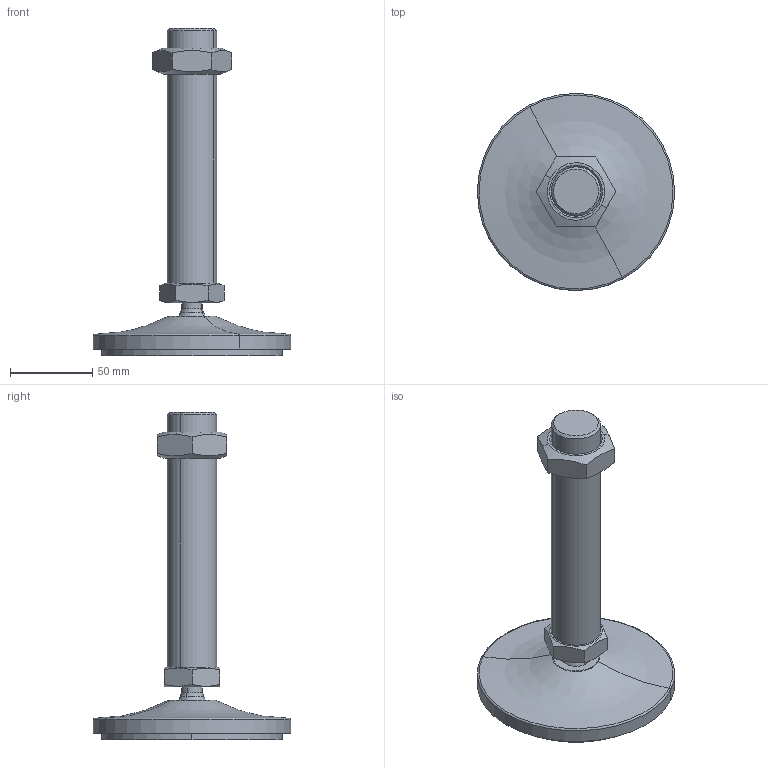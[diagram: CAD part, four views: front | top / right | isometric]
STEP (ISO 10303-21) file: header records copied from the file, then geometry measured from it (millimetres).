
FILE_DESCRIPTION(('CATIA V5 STEP Exchange'),'2;1');
FILE_NAME('C:\Users\ALI OZGUN\Desktop\alhan\saplama2\560123021AV.stp','2017-09-21T10:32:32+00:00',('none'),('none'),'CATIA Version 5 Release 21 GA (IN-10)','CATIA V5 STEP AP203','none');
FILE_SCHEMA(('CONFIG_CONTROL_DESIGN'));
Length unit declared in the file: millimetre
Products named in the file (1): 560123021AV
Bounding box: 119.97 x 119.97 x 199 mm (x, y, z)
Volume: 306396.9 mm3; surface area: 73894.1 mm2
Topology: 4 solids, 4 shells, 64 faces, 142 edges, 87 vertices
Faces by surface type: plane 22, cylinder 16, cone 16, torus 4, revolution 4, sphere 2
Entity records: 1966 total; most frequent: CARTESIAN_POINT 658, ORIENTED_EDGE 280, DIRECTION 197, EDGE_CURVE 140, AXIS2_PLACEMENT_3D 106, VERTEX_POINT 87, EDGE_LOOP 71, ADVANCED_FACE 64
